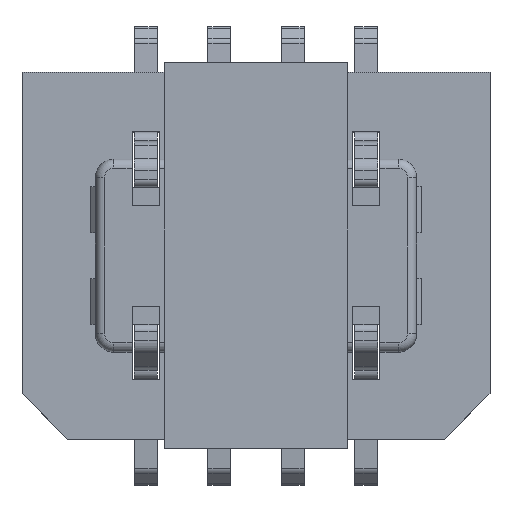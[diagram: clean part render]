
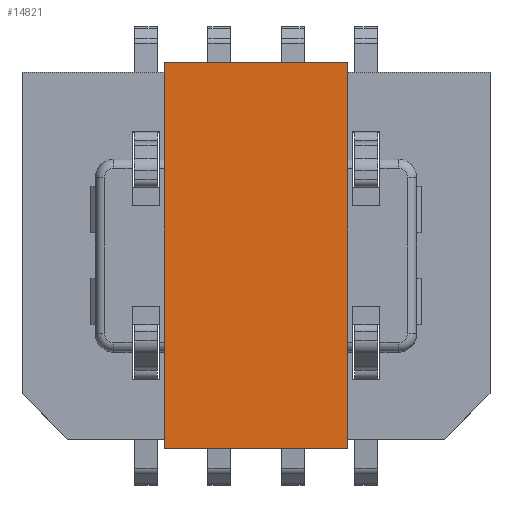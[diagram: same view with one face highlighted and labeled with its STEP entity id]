
A CAD part, top view. The second image highlights one B-rep face of the part: STEP entity #14821.
In plain terms, the highlighted planar face has unit normal (0, 0, 1).
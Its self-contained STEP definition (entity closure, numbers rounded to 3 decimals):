
#14769=CARTESIAN_POINT('Vertex',(-1.,2.1,2.95)) ;
#14772=CARTESIAN_POINT('Line Origine',(0.,2.1,2.95)) ;
#14776=CARTESIAN_POINT('Vertex',(1.,2.1,2.95)) ;
#14791=CARTESIAN_POINT('Axis2P3D Location',(0.,-2.1,2.95)) ;
#14796=CARTESIAN_POINT('Line Origine',(-1.,0.,2.95)) ;
#14800=CARTESIAN_POINT('Vertex',(-1.,-2.1,2.95)) ;
#14803=CARTESIAN_POINT('Line Origine',(0.,-2.1,2.95)) ;
#14807=CARTESIAN_POINT('Vertex',(1.,-2.1,2.95)) ;
#14810=CARTESIAN_POINT('Line Origine',(1.,0.,2.95)) ;
#14773=DIRECTION('Vector Direction',(1.,0.,0.)) ;
#14792=DIRECTION('Axis2P3D Direction',(0.,0.,-1.)) ;
#14793=DIRECTION('Axis2P3D XDirection',(0.,1.,0.)) ;
#14797=DIRECTION('Vector Direction',(0.,1.,0.)) ;
#14804=DIRECTION('Vector Direction',(1.,0.,0.)) ;
#14811=DIRECTION('Vector Direction',(0.,1.,0.)) ;
#14794=AXIS2_PLACEMENT_3D('Plane Axis2P3D',#14791,#14792,#14793) ;
#14816=ORIENTED_EDGE('',*,*,#14778,.F.) ;
#14817=ORIENTED_EDGE('',*,*,#14802,.T.) ;
#14818=ORIENTED_EDGE('',*,*,#14809,.T.) ;
#14819=ORIENTED_EDGE('',*,*,#14814,.F.) ;
#14774=VECTOR('Line Direction',#14773,1.) ;
#14798=VECTOR('Line Direction',#14797,1.) ;
#14805=VECTOR('Line Direction',#14804,1.) ;
#14812=VECTOR('Line Direction',#14811,1.) ;
#14821=ADVANCED_FACE('\X2\76D6\X0\',(#14820),#14795,.F.) ;
#14778=EDGE_CURVE('',#14770,#14777,#14775,.T.) ;
#14802=EDGE_CURVE('',#14770,#14801,#14799,.F.) ;
#14809=EDGE_CURVE('',#14801,#14808,#14806,.T.) ;
#14814=EDGE_CURVE('',#14777,#14808,#14813,.F.) ;
#14815=EDGE_LOOP('',(#14816,#14817,#14818,#14819)) ;
#14820=FACE_OUTER_BOUND('',#14815,.T.) ;
#14775=LINE('Line',#14772,#14774) ;
#14799=LINE('Line',#14796,#14798) ;
#14806=LINE('Line',#14803,#14805) ;
#14813=LINE('Line',#14810,#14812) ;
#14795=PLANE('Plane',#14794) ;
#14770=VERTEX_POINT('',#14769) ;
#14777=VERTEX_POINT('',#14776) ;
#14801=VERTEX_POINT('',#14800) ;
#14808=VERTEX_POINT('',#14807) ;
